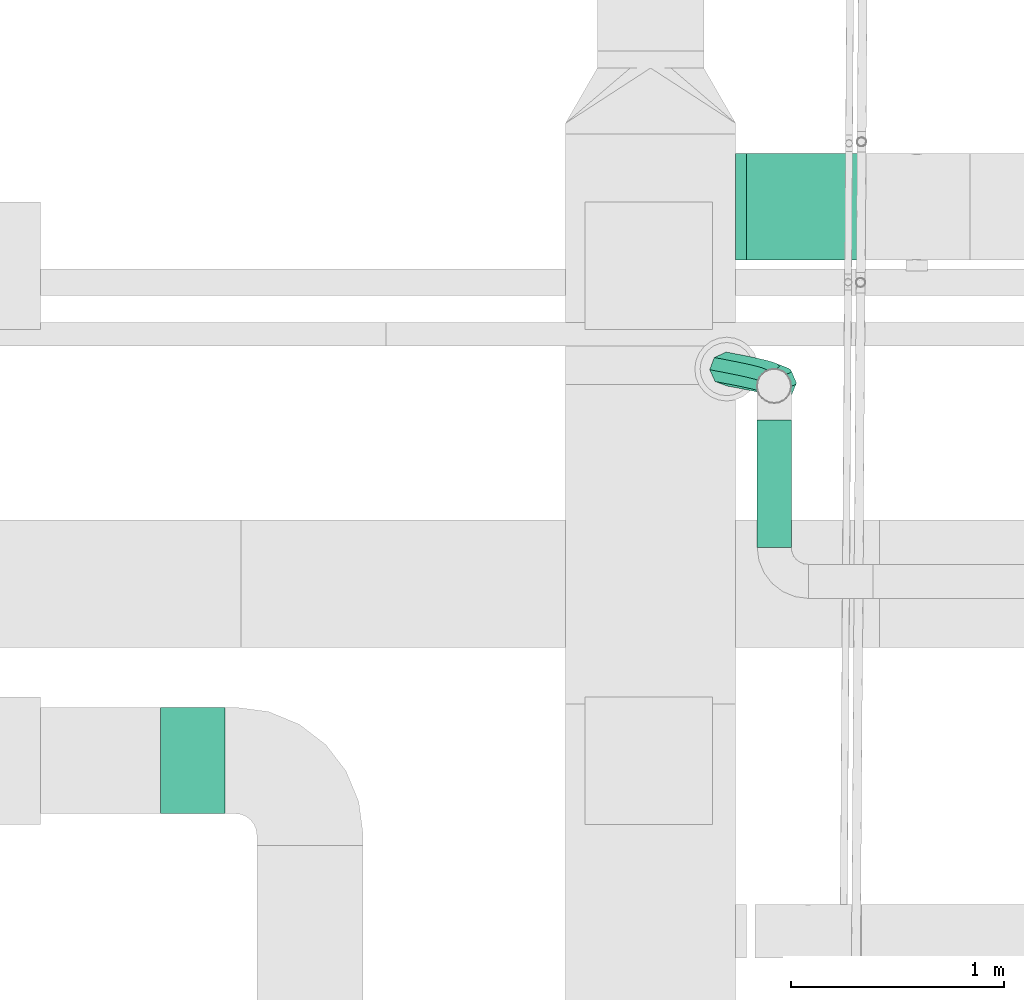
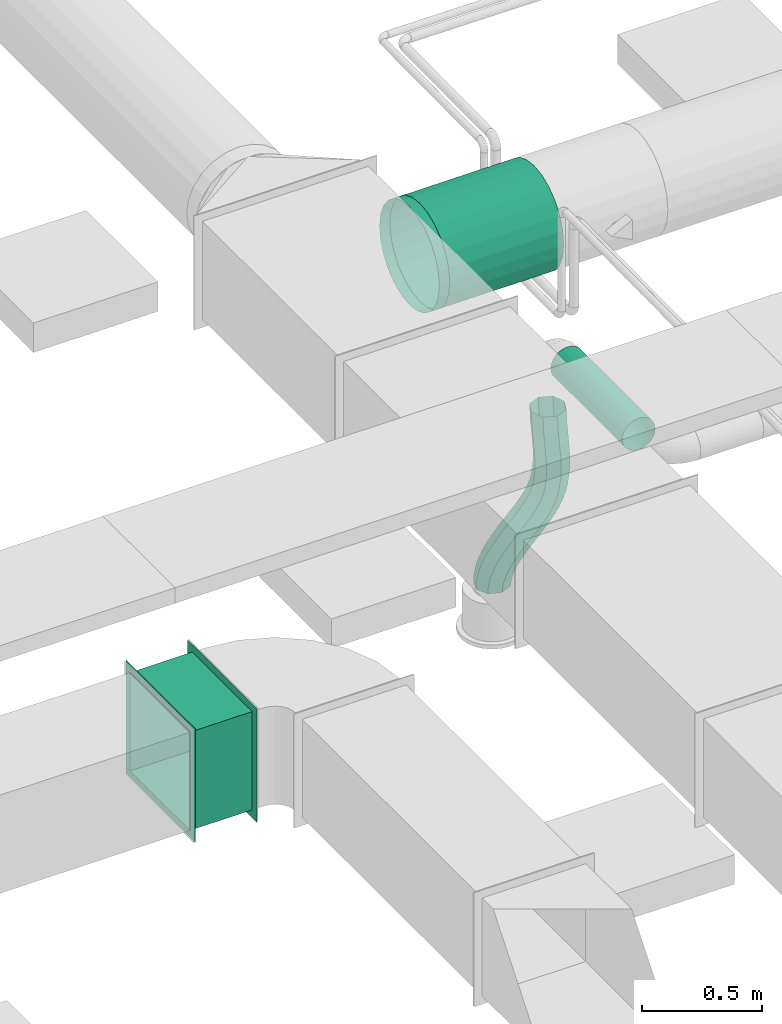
# One storey, part 311 of 374: 5 flow segments.
"""IFC2X3 building model written with IfcOpenShell, lengths in metres."""

from ifc_helpers import new_model, si_unit, direction, origin, place, context, subcontext, project, spatial, open_shell, surface_model, source, transform, mapped, element, save


model = new_model("IFC2X3")

# Units and contexts
model_context = context("Model", 3, precision=1e-05, world=origin(), true_north=direction((-0.4480736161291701, 0.8939966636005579)))
body_context = subcontext(model_context, "Body", "Model", "MODEL_VIEW")
ifc_project = project(units=[si_unit("LENGTHUNIT", "METRE"), si_unit("AREAUNIT", "SQUARE_METRE"), si_unit("VOLUMEUNIT", "CUBIC_METRE"), si_unit("PLANEANGLEUNIT", "RADIAN"), si_unit("THERMODYNAMICTEMPERATUREUNIT", "KELVIN"), si_unit("MASSUNIT", "GRAM", prefix="KILO"), si_unit("TIMEUNIT", "SECOND")], contexts=[model_context])

# Site, building, storey
site_placement = place(None, origin())
site = spatial("IfcSite", under=ifc_project, at=site_placement, Name="Site 1", CompositionType="ELEMENT")
building_placement = place(site_placement, origin())
building = spatial("IfcBuilding", under=site, at=building_placement, Name="Undefined", CompositionType="ELEMENT")
storey_placement = place(building_placement, origin())
storey = spatial("IfcBuildingStorey", under=building, at=storey_placement, Name="Rez de chauss\x8ee", CompositionType="ELEMENT", Elevation=0.0)

# Flow segments
shared_shape_1 = source(origin(), body_context, "Body", "SurfaceModel", [
    surface_model("IfcFaceBasedSurfaceModel", [(0.0, 0.020884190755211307, 0.0), (0.0, 0.0, 0.0), (0.5972968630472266, 7.105427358e-15, 0.0), (0.5972968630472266, 0.020884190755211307, 0.0), (0.0, -0.020172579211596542, -0.005405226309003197), (0.5972968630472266, -0.020172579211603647, -0.005405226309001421), (0.0, -0.03825881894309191, -0.015847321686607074), (0.5972968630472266, -0.038258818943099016, -0.015847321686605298), (0.0, -0.05302617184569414, -0.0306146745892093), (0.5972968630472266, -0.05302617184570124, -0.030614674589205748), (0.0, -0.06346826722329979, -0.04870091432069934), (0.5972968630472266, -0.0634682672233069, -0.04870091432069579), (0.0, -0.06887349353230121, -0.06887349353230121), (0.5972968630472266, -0.0688734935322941, -0.06887349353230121), (0.0, -0.06887349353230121, -0.08975768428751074), (0.5972968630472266, -0.06887349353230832, -0.08975768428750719), (0.0, -0.06346826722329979, -0.10993026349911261), (0.5972968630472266, -0.0634682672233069, -0.10993026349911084), (0.0, -0.05302617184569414, -0.12801650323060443), (0.5972968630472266, -0.05302617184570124, -0.12801650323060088), (0.0, -0.038258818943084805, -0.14278385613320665), (0.5972968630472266, -0.03825881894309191, -0.1427838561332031), (0.0, -0.020172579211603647, -0.15322595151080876), (0.5972968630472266, -0.020172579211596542, -0.15322595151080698), (0.0, 7.105427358e-15, -0.15863117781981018), (0.5972968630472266, 0.0, -0.1586311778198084), (0.0, 0.020884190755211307, -0.15863117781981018), (0.5972968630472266, 0.020884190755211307, -0.1586311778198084), (0.0, 0.04105676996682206, -0.15322595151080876), (0.5972968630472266, 0.041056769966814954, -0.15322595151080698), (0.0, 0.05914300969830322, -0.1427838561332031), (0.5972968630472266, 0.05914300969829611, -0.1427838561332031), (0.0, 0.07391036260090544, -0.12801650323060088), (0.5972968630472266, 0.07391036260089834, -0.12801650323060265), (0.0, 0.0843524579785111, -0.10993026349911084), (0.5972968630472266, 0.0843524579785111, -0.10993026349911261), (0.0, 0.08975768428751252, -0.08975768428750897), (0.5972968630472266, 0.08975768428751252, -0.08975768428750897), (0.0, 0.08975768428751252, -0.06887349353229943), (0.5972968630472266, 0.08975768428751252, -0.06887349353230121), (0.0, 0.0843524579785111, -0.048700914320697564), (0.5972968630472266, 0.08435245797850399, -0.048700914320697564), (0.0, 0.07391036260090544, -0.030614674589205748), (0.5972968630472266, 0.07391036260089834, -0.030614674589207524), (0.0, 0.05914300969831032, -0.015847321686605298), (0.5972968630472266, 0.05914300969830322, -0.015847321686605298), (0.0, 0.04105676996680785, -0.005405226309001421), (0.5972968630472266, 0.041056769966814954, -0.005405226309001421)], [open_shell([[[0, 1, 2, 3]], [[1, 4, 5, 2]], [[4, 6, 7, 5]], [[6, 8, 9, 7]], [[8, 10, 11, 9]], [[10, 12, 13, 11]], [[12, 14, 15, 13]], [[14, 16, 17, 15]], [[16, 18, 19, 17]], [[18, 20, 21, 19]], [[20, 22, 23, 21]], [[22, 24, 25, 23]], [[24, 26, 27, 25]], [[26, 28, 29, 27]], [[28, 30, 31, 29]], [[30, 32, 33, 31]], [[32, 34, 35, 33]], [[34, 36, 37, 35]], [[36, 38, 39, 37]], [[38, 40, 41, 39]], [[40, 42, 43, 41]], [[42, 44, 45, 43]], [[44, 46, 47, 45]], [[46, 0, 3, 47]]])]),
])
flow_segment_1_placement = place(storey_placement, origin())
element("IfcFlowSegment", 1, at=flow_segment_1_placement, inside=storey, Name="Tube", ObjectType="Tube", context=body_context, shape_type="MappedRepresentation", body=[
    mapped(shared_shape_1, transform((52.53660764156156, 16.11499847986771, 3.877274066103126), x_axis=(0.0, 1.0, 0.0), y_axis=(-0.9914448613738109, 0.0, 0.1305261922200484), z_axis=(0.1305261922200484, 0.0, 0.9914448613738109))),
])
shared_shape_2 = source(origin(), body_context, "Body", "SurfaceModel", [
    surface_model("IfcFaceBasedSurfaceModel", [(0.0, 0.0652630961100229, -3.552713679e-15), (0.0, 0.0, 0.0), (0.5499999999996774, 3.552713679e-15, -4.4408921e-16), (0.5499999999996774, 0.0652630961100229, -4.4408921e-16), (0.0, -0.06303931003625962, -0.01689133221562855), (0.5499999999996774, -0.06303931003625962, -0.01689133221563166), (0.0, -0.11955880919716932, -0.049522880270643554), (0.5499999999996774, -0.11955880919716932, -0.04952288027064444), (0.0, -0.1657067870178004, -0.09567085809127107), (0.5499999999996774, -0.1657067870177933, -0.09567085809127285), (0.0, -0.1983383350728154, -0.15219035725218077), (0.5499999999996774, -0.1983383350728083, -0.15219035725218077), (0.0, -0.2152296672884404, -0.2152296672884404), (0.5499999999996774, -0.2152296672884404, -0.21522966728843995), (0.0, -0.2152296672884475, -0.28049276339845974), (0.5499999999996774, -0.21522966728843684, -0.2804927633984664), (0.0, -0.1983383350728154, -0.3435320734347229), (0.5499999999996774, -0.1983383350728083, -0.3435320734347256), (0.0, -0.1657067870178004, -0.4000515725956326), (0.5499999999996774, -0.16570678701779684, -0.40005157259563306), (0.0, -0.11955880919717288, -0.44619955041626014), (0.5499999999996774, -0.11955880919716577, -0.4461995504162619), (0.0, -0.06303931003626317, -0.47883109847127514), (0.5499999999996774, -0.06303931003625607, -0.47883109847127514), (0.0, -7.105427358e-15, -0.49572243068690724), (0.5499999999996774, 0.0, -0.49572243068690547), (0.0, 0.0652630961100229, -0.4957224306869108), (0.5499999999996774, 0.0652630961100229, -0.49572243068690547), (0.0, 0.12830240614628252, -0.47883109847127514), (0.5499999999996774, 0.12830240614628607, -0.47883109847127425), (0.0, 0.18482190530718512, -0.4461995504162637), (0.5499999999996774, 0.18482190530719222, -0.44619955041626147), (0.0, 0.2309698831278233, -0.4000515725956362), (0.5499999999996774, 0.2309698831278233, -0.40005157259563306), (0.0, 0.26360143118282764, -0.34353207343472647), (0.5499999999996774, 0.26360143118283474, -0.34353207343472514), (0.0, 0.2804927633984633, -0.2804927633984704), (0.5499999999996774, 0.28049276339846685, -0.2804927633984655), (0.0, 0.28049276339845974, -0.2152296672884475), (0.5499999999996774, 0.2804927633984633, -0.2152296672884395), (0.0, 0.2636014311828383, -0.15219035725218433), (0.5499999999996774, 0.2636014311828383, -0.15219035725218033), (0.0, 0.2309698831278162, -0.09567085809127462), (0.5499999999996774, 0.23096988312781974, -0.09567085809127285), (0.0, 0.18482190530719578, -0.049522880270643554), (0.5499999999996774, 0.18482190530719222, -0.049522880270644), (0.0, 0.12830240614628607, -0.016891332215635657), (0.5499999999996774, 0.12830240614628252, -0.016891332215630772)], [open_shell([[[0, 1, 2, 3]], [[1, 4, 5, 2]], [[4, 6, 7, 5]], [[6, 8, 9, 7]], [[8, 10, 11, 9]], [[10, 12, 13, 11]], [[12, 14, 15, 13]], [[14, 16, 17, 15]], [[16, 18, 19, 17]], [[18, 20, 21, 19]], [[20, 22, 23, 21]], [[22, 24, 25, 23]], [[24, 26, 27, 25]], [[26, 28, 29, 27]], [[28, 30, 31, 29]], [[30, 32, 33, 31]], [[32, 34, 35, 33]], [[34, 36, 37, 35]], [[36, 38, 39, 37]], [[38, 40, 41, 39]], [[40, 42, 43, 41]], [[42, 44, 45, 43]], [[44, 46, 47, 45]], [[46, 0, 3, 47]]])]),
])
flow_segment_2_placement = place(storey_placement, origin())
element("IfcFlowSegment", 2, at=flow_segment_2_placement, inside=storey, Name="Tube", ObjectType="Tube", context=body_context, shape_type="MappedRepresentation", body=[
    mapped(shared_shape_2, transform((52.38499507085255, 17.649561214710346, 4.041481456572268), x_axis=(1.0, 0.0, 0.0), y_axis=(0.0, 0.9914448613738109, 0.1305261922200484), z_axis=(0.0, -0.1305261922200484, 0.9914448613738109))),
])
shared_shape_3 = source(origin(), body_context, "Body", "SurfaceModel", [
    surface_model("IfcFaceBasedSurfaceModel", [(0.09682865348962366, 0.0, 0.0), (0.056251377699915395, 0.04585322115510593, 0.0), (0.0, 0.0, 0.0), (0.03761410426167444, -0.04831363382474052, -7.174993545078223e-05), (-0.061678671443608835, -0.04588102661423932, 0.0031998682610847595), (-0.02492694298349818, -0.09485388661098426, 0.003148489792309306), (-0.12545377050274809, -0.0941316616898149, 0.00808070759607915), (-0.08705201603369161, -0.14182145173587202, 0.007931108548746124), (-0.18753706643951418, -0.1473332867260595, 0.012930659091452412), (-0.14503565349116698, -0.19140725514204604, 0.012545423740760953), (-0.2423178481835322, -0.20681088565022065, 0.01580870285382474), (-0.19550839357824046, -0.24627731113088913, 0.01525244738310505), (-0.2681285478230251, -0.24306298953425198, 0.015888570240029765), (-0.2162632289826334, -0.2756014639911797, 0.015369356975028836), (-0.2887383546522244, -0.2800060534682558, 0.014677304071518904), (-0.23409561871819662, -0.3076301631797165, 0.014340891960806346), (-0.30094072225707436, -0.3077638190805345, 0.012951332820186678), (-0.24401524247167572, -0.33031427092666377, 0.012942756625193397), (-0.3107801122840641, -0.3351935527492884, 0.01069019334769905), (-0.2525896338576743, -0.3542413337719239, 0.010979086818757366), (-0.31902123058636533, -0.3628934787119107, 0.0079540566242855), (-0.2599801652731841, -0.37910634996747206, 0.008527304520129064), (-0.3260060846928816, -0.390709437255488, 0.0048364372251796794), (-0.2664132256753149, -0.40474705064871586, 0.0056548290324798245), (-0.3320529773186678, -0.41850186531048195, 0.0014234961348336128), (-0.2721212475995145, -0.4310001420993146, 0.0024304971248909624), (-0.33748453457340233, -0.4462760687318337, -0.0022228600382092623), (-0.27735281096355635, -0.45776135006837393, -0.0010838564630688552), (-0.3449447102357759, -0.4868761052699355, -0.007863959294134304), (-0.2847979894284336, -0.49828152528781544, -0.006714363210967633), (-0.35233668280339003, -0.5257432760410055, -0.013488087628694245), (-0.2926760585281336, -0.5394891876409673, -0.012655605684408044), (-0.3710531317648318, -0.6011056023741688, -0.024390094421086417), (-0.31219323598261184, -0.6179690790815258, -0.02397897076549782), (-0.3827293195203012, -0.6325307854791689, -0.028713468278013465), (-0.3264102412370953, -0.656551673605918, -0.029151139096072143), (-0.39772785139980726, -0.6626447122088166, -0.0324243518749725), (-0.34406158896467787, -0.6921048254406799, -0.0334574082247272), (-0.4086171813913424, -0.6792856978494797, -0.034220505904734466), (-0.3588515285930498, -0.7149211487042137, -0.035810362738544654), (-0.4214273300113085, -0.6951494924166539, -0.03563113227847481), (-0.3758399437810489, -0.7359784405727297, -0.037585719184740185), (-0.4360543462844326, -0.7095584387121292, -0.03655369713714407), (-0.3954538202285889, -0.7553397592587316, -0.03872191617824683), (0.028531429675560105, 0.07913696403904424, -0.04327620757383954), (-0.027328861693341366, 0.03365754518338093, -0.04323582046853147), (-0.08945977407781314, -0.012552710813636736, -0.04000275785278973), (-0.1547135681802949, -0.06196988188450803, -0.03502981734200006), (-0.21927868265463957, -0.11741862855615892, -0.030041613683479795), (-0.27641018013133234, -0.17947170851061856, -0.027078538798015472), (-0.30481085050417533, -0.2193767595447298, -0.027034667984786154), (-0.3268071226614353, -0.2588195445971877, -0.028345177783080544), (-0.34012772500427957, -0.28911238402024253, -0.030240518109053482), (-0.35057758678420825, -0.3182565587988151, -0.03264953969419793), (-0.35922026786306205, -0.34731019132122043, -0.03552273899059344), (-0.36645652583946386, -0.3761246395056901, -0.038753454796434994), (-0.37264755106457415, -0.4045729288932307, -0.04224684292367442), (-0.3781445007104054, -0.4326739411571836, -0.04593535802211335), (-0.3855710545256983, -0.4730929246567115, -0.05155099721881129), (-0.3925995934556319, -0.5102711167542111, -0.05694546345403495), (-0.4107879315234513, -0.5836463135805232, -0.06757981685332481), (-0.4208356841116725, -0.6107358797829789, -0.07139742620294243), (-0.4342158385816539, -0.637643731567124, -0.07476358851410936), (-0.44276080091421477, -0.6507017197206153, -0.07624671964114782), (-0.45310164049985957, -0.6635843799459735, -0.07745714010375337), (-0.46480783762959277, -0.6751774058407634, -0.07826957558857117), (0.02990677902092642, 0.0803540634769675, -0.10447800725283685), (-0.0283636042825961, 0.032942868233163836, -0.10445225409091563), (-0.09199645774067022, -0.014392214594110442, -0.10115187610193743), (-0.15769141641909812, -0.06417604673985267, -0.09614690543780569), (-0.22166669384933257, -0.11918688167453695, -0.0911988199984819), (-0.27781456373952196, -0.18027469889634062, -0.08828651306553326), (-0.30482214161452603, -0.2184178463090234, -0.08825650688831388), (-0.32600175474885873, -0.25648140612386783, -0.08952456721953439), (-0.3386210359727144, -0.28528572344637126, -0.09133159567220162), (-0.3486692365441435, -0.3133518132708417, -0.09365228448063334), (-0.3570292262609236, -0.34148496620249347, -0.09643496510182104), (-0.3640692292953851, -0.3695362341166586, -0.09958047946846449), (-0.3701252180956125, -0.39737271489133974, -0.10299902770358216), (-0.375514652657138, -0.4249229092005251, -0.10661516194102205), (-0.38287866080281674, -0.4650059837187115, -0.11218420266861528), (-0.389879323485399, -0.5021360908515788, -0.11757099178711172), (-0.4081215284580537, -0.575818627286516, -0.12824818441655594), (-0.4184071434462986, -0.6039341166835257, -0.132199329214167), (-0.4321513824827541, -0.6317471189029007, -0.13567336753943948), (-0.44128151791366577, -0.6459133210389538, -0.13727061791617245), (-0.45230849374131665, -0.6597735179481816, -0.13856263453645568), (-0.4648708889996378, -0.6723366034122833, -0.13943295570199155), (0.05957176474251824, 0.0487915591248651, -0.1477542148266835), (-0.002498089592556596, -0.001725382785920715, -0.1477895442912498), (-0.06780276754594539, -0.05032198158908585, -0.14442716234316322), (-0.13264293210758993, -0.09945781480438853, -0.13946899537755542), (-0.19330223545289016, -0.15160222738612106, -0.13471589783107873), (-0.2457083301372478, -0.2087494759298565, -0.13196041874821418), (-0.2681558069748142, -0.24074796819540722, -0.1319140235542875), (-0.28679402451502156, -0.2743612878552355, -0.1330228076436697), (-0.29730325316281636, -0.2985254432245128, -0.13453557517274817), (-0.30617294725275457, -0.32335244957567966, -0.1365834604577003), (-0.31373158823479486, -0.348830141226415, -0.13910106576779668), (-0.32024264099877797, -0.37480361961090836, -0.14201299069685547), (-0.32596352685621, -0.4011190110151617, -0.14524525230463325), (-0.3311355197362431, -0.4275634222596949, -0.14871686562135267), (-0.3384446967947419, -0.4673525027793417, -0.15424546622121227), (-0.3457693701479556, -0.5061035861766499, -0.15985106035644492), (-0.36461586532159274, -0.5822078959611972, -0.1708564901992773), (-0.3768663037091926, -0.616109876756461, -0.17550224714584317), (-0.39274381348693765, -0.6484090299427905, -0.1794735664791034), (-0.4050458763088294, -0.6677254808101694, -0.18154522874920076), (-0.41951250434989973, -0.6859492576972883, -0.18315284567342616), (-0.4362065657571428, -0.7027001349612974, -0.18421515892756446), (0.10014904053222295, 0.002938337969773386, -0.1477542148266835), (0.0351160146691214, -0.05003901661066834, -0.14786129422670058), (-0.031051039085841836, -0.0992948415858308, -0.14447854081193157), (-0.09424117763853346, -0.14714760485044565, -0.13961859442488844), (-0.15080082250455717, -0.1956761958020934, -0.13510113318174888), (-0.1988988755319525, -0.24821590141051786, -0.13251667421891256), (-0.2162904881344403, -0.27328644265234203, -0.1324332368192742), (-0.23215128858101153, -0.30198539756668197, -0.13335921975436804), (-0.24037777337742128, -0.32107589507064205, -0.13454415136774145), (-0.2479824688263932, -0.34240023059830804, -0.1362945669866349), (-0.2546905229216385, -0.36504301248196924, -0.1385278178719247), (-0.26064978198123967, -0.3888412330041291, -0.141194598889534), (-0.2660317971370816, -0.4136172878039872, -0.1442382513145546), (-0.271003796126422, -0.43904870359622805, -0.14757786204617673), (-0.27829797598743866, -0.4787579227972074, -0.1530958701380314), (-0.28610874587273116, -0.5198494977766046, -0.1590185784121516), (-0.3057559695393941, -0.5990713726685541, -0.17044536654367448), (-0.32054722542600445, -0.6401307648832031, -0.17593991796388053), (-0.339077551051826, -0.6778691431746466, -0.18050662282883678), (-0.35528022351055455, -0.7033609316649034, -0.18313508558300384), (-0.37392511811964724, -0.7267782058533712, -0.18510743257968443), (-0.3956060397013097, -0.7484814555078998, -0.1863833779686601), (0.12786898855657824, -0.03034540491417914, -0.10447800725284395), (0.062444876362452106, -0.08369656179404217, -0.104625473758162), (-0.0032699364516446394, -0.13262315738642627, -0.10127591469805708), (-0.06498137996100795, -0.1793093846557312, -0.09650806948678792), (-0.11905920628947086, -0.22559085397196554, -0.09212886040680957), (-0.1648065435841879, -0.27555507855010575, -0.08962943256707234), (-0.17960818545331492, -0.2969726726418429, -0.08950999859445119), (-0.19408252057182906, -0.32317190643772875, -0.09033673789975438), (-0.2011907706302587, -0.33972733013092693, -0.09135230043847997), (-0.2081849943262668, -0.35933722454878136, -0.0929548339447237), (-0.21449148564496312, -0.3806262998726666, -0.09505102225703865), (-0.22019934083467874, -0.40342603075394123, -0.09760470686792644), (-0.2254372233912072, -0.42754622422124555, -0.10056791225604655), (-0.2303438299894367, -0.452650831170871, -0.10386536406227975), (-0.23767163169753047, -0.49254110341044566, -0.1094088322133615), (-0.24584583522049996, -0.5353216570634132, -0.1155612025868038), (-0.2660211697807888, -0.6165306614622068, -0.12725564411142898), (-0.2824408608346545, -0.6619256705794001, -0.13325596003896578), (-0.3025895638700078, -0.7028701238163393, -0.13816738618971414), (-0.32113660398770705, -0.7319449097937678, -0.1411088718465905), (-0.3422508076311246, -0.7583433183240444, -0.14328142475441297), (-0.366852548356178, -0.7828624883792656, -0.144667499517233), (0.12649363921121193, -0.03156250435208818, -0.04327620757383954), (0.06347961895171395, -0.08298188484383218, -0.043409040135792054), (-0.000733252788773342, -0.13078365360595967, -0.04012679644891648), (-0.06200353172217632, -0.17710321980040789, -0.03539098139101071), (-0.11667119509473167, -0.22382260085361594, -0.030971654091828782), (-0.16340215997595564, -0.274752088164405, -0.028421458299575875), (-0.17959689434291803, -0.29793158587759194, -0.02828815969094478), (-0.19488788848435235, -0.32551004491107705, -0.029157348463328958), (-0.20269745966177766, -0.3435539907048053, -0.03026122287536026), (-0.21009334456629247, -0.36424197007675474, -0.031952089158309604), (-0.21668252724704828, -0.3864515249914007, -0.03413879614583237), (-0.22258663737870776, -0.4100144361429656, -0.036777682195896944), (-0.22795955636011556, -0.4347464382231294, -0.03981572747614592), (-0.23297367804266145, -0.4604018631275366, -0.04318556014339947), (-0.24036402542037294, -0.5006280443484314, -0.04877562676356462), (-0.24856610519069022, -0.5434566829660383, -0.05493567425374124), (-0.26868757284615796, -0.6243583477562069, -0.06658727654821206), (-0.2848694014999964, -0.6687274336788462, -0.07245405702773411), (-0.3046540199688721, -0.7087667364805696, -0.0772576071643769), (-0.3226158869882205, -0.7367333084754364, -0.08008497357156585), (-0.34304395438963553, -0.7621541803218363, -0.08217593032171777), (-0.36678949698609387, -0.7857032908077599, -0.08350411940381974)], [open_shell([[[0, 1, 2]], [[2, 3, 0]], [[3, 2, 4]], [[4, 5, 3]], [[5, 4, 6]], [[6, 7, 5]], [[7, 6, 8]], [[8, 9, 7]], [[9, 8, 10]], [[10, 11, 9]], [[11, 10, 12]], [[12, 13, 11]], [[13, 12, 14]], [[14, 15, 13]], [[15, 14, 16]], [[16, 17, 15]], [[17, 16, 18]], [[18, 19, 17]], [[19, 18, 20]], [[20, 21, 19]], [[21, 20, 22]], [[22, 23, 21]], [[23, 22, 24]], [[24, 25, 23]], [[25, 24, 26]], [[26, 27, 25]], [[27, 26, 28]], [[28, 29, 27]], [[29, 28, 30]], [[30, 31, 29]], [[31, 30, 32]], [[32, 33, 31]], [[33, 32, 34]], [[34, 35, 33]], [[35, 34, 36]], [[36, 37, 35]], [[37, 36, 38]], [[38, 39, 37]], [[39, 38, 40]], [[40, 41, 39]], [[41, 40, 42]], [[42, 43, 41]], [[1, 44, 45]], [[45, 2, 1]], [[2, 45, 46]], [[46, 4, 2]], [[4, 46, 47]], [[47, 6, 4]], [[6, 47, 48]], [[48, 8, 6]], [[8, 48, 49]], [[49, 10, 8]], [[10, 49, 50]], [[50, 12, 10]], [[12, 50, 51]], [[51, 14, 12]], [[14, 51, 52]], [[52, 16, 14]], [[16, 52, 53]], [[53, 18, 16]], [[18, 53, 54]], [[54, 20, 18]], [[20, 54, 55]], [[55, 22, 20]], [[22, 55, 56]], [[56, 24, 22]], [[24, 56, 57]], [[57, 26, 24]], [[26, 57, 58]], [[58, 28, 26]], [[28, 58, 59]], [[59, 30, 28]], [[30, 59, 60]], [[60, 32, 30]], [[32, 60, 61]], [[61, 34, 32]], [[34, 61, 62]], [[62, 36, 34]], [[36, 62, 63]], [[63, 38, 36]], [[38, 63, 64]], [[64, 40, 38]], [[40, 64, 65]], [[65, 42, 40]], [[44, 66, 67]], [[67, 45, 44]], [[45, 67, 68]], [[68, 46, 45]], [[46, 68, 69]], [[69, 47, 46]], [[47, 69, 70]], [[70, 48, 47]], [[48, 70, 71]], [[71, 49, 48]], [[49, 71, 72]], [[72, 50, 49]], [[50, 72, 73]], [[73, 51, 50]], [[51, 73, 74]], [[74, 52, 51]], [[52, 74, 75]], [[75, 53, 52]], [[53, 75, 76]], [[76, 54, 53]], [[54, 76, 77]], [[77, 55, 54]], [[55, 77, 78]], [[78, 56, 55]], [[56, 78, 79]], [[79, 57, 56]], [[57, 79, 80]], [[80, 58, 57]], [[58, 80, 81]], [[81, 59, 58]], [[59, 81, 82]], [[82, 60, 59]], [[60, 82, 83]], [[83, 61, 60]], [[61, 83, 84]], [[84, 62, 61]], [[62, 84, 85]], [[85, 63, 62]], [[63, 85, 86]], [[86, 64, 63]], [[64, 86, 87]], [[87, 65, 64]], [[66, 88, 89]], [[89, 67, 66]], [[67, 89, 90]], [[90, 68, 67]], [[68, 90, 91]], [[91, 69, 68]], [[69, 91, 92]], [[92, 70, 69]], [[70, 92, 93]], [[93, 71, 70]], [[71, 93, 94]], [[94, 72, 71]], [[72, 94, 95]], [[95, 73, 72]], [[73, 95, 96]], [[96, 74, 73]], [[74, 96, 97]], [[97, 75, 74]], [[75, 97, 98]], [[98, 76, 75]], [[76, 98, 99]], [[99, 77, 76]], [[77, 99, 100]], [[100, 78, 77]], [[78, 100, 101]], [[101, 79, 78]], [[79, 101, 102]], [[102, 80, 79]], [[80, 102, 103]], [[103, 81, 80]], [[81, 103, 104]], [[104, 82, 81]], [[82, 104, 105]], [[105, 83, 82]], [[83, 105, 106]], [[106, 84, 83]], [[84, 106, 107]], [[107, 85, 84]], [[85, 107, 108]], [[108, 86, 85]], [[86, 108, 109]], [[109, 87, 86]], [[88, 110, 111]], [[111, 89, 88]], [[89, 111, 112]], [[112, 90, 89]], [[90, 112, 113]], [[113, 91, 90]], [[91, 113, 114]], [[114, 92, 91]], [[92, 114, 115]], [[115, 93, 92]], [[93, 115, 116]], [[116, 94, 93]], [[94, 116, 117]], [[117, 95, 94]], [[95, 117, 118]], [[118, 96, 95]], [[96, 118, 119]], [[119, 97, 96]], [[97, 119, 120]], [[120, 98, 97]], [[98, 120, 121]], [[121, 99, 98]], [[99, 121, 122]], [[122, 100, 99]], [[100, 122, 123]], [[123, 101, 100]], [[101, 123, 124]], [[124, 102, 101]], [[102, 124, 125]], [[125, 103, 102]], [[103, 125, 126]], [[126, 104, 103]], [[104, 126, 127]], [[127, 105, 104]], [[105, 127, 128]], [[128, 106, 105]], [[106, 128, 129]], [[129, 107, 106]], [[107, 129, 130]], [[130, 108, 107]], [[108, 130, 131]], [[131, 109, 108]], [[110, 132, 133]], [[133, 111, 110]], [[111, 133, 134]], [[134, 112, 111]], [[112, 134, 135]], [[135, 113, 112]], [[113, 135, 136]], [[136, 114, 113]], [[114, 136, 137]], [[137, 115, 114]], [[115, 137, 138]], [[138, 116, 115]], [[116, 138, 139]], [[139, 117, 116]], [[117, 139, 140]], [[140, 118, 117]], [[118, 140, 141]], [[141, 119, 118]], [[119, 141, 142]], [[142, 120, 119]], [[120, 142, 143]], [[143, 121, 120]], [[121, 143, 144]], [[144, 122, 121]], [[122, 144, 145]], [[145, 123, 122]], [[123, 145, 146]], [[146, 124, 123]], [[124, 146, 147]], [[147, 125, 124]], [[125, 147, 148]], [[148, 126, 125]], [[126, 148, 149]], [[149, 127, 126]], [[127, 149, 150]], [[150, 128, 127]], [[128, 150, 151]], [[151, 129, 128]], [[129, 151, 152]], [[152, 130, 129]], [[130, 152, 153]], [[153, 131, 130]], [[132, 154, 155]], [[155, 133, 132]], [[133, 155, 156]], [[156, 134, 133]], [[134, 156, 157]], [[157, 135, 134]], [[135, 157, 158]], [[158, 136, 135]], [[136, 158, 159]], [[159, 137, 136]], [[137, 159, 160]], [[160, 138, 137]], [[138, 160, 161]], [[161, 139, 138]], [[139, 161, 162]], [[162, 140, 139]], [[140, 162, 163]], [[163, 141, 140]], [[141, 163, 164]], [[164, 142, 141]], [[142, 164, 165]], [[165, 143, 142]], [[143, 165, 166]], [[166, 144, 143]], [[144, 166, 167]], [[167, 145, 144]], [[145, 167, 168]], [[168, 146, 145]], [[146, 168, 169]], [[169, 147, 146]], [[147, 169, 170]], [[170, 148, 147]], [[148, 170, 171]], [[171, 149, 148]], [[149, 171, 172]], [[172, 150, 149]], [[150, 172, 173]], [[173, 151, 150]], [[151, 173, 174]], [[174, 152, 151]], [[152, 174, 175]], [[175, 153, 152]], [[154, 0, 3]], [[3, 155, 154]], [[155, 3, 5]], [[5, 156, 155]], [[156, 5, 7]], [[7, 157, 156]], [[157, 7, 9]], [[9, 158, 157]], [[158, 9, 11]], [[11, 159, 158]], [[159, 11, 13]], [[13, 160, 159]], [[160, 13, 15]], [[15, 161, 160]], [[161, 15, 17]], [[17, 162, 161]], [[162, 17, 19]], [[19, 163, 162]], [[163, 19, 21]], [[21, 164, 163]], [[164, 21, 23]], [[23, 165, 164]], [[165, 23, 25]], [[25, 166, 165]], [[166, 25, 27]], [[27, 167, 166]], [[167, 27, 29]], [[29, 168, 167]], [[168, 29, 31]], [[31, 169, 168]], [[169, 31, 33]], [[33, 170, 169]], [[170, 33, 35]], [[35, 171, 170]], [[171, 35, 37]], [[37, 172, 171]], [[172, 37, 39]], [[39, 173, 172]], [[173, 39, 41]], [[41, 174, 173]], [[174, 41, 43]], [[43, 175, 174]]])]),
])
flow_segment_3_placement = place(storey_placement, origin())
element("IfcFlowSegment", 3, at=flow_segment_3_placement, inside=storey, Name="Tube flexible", ObjectType="Tube flexible", context=body_context, shape_type="MappedRepresentation", body=[
    mapped(shared_shape_3, transform((52.576019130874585, 16.929748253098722, 3.40751992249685), x_axis=(-0.6208597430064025, 0.2328555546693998, 0.7485395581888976), y_axis=(0.6842648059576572, -0.30494724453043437, 0.6624113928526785), z_axis=(0.38251124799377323, 0.9234638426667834, 0.02999460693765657))),
])
shared_shape_4 = source(origin(), body_context, "Body", "SurfaceModel", [
    surface_model("IfcFaceBasedSurfaceModel", [(0.0, 0.0, 0.0), (0.5800000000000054, 0.0, 0.0), (0.5400000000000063, 0.040000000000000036, 0.0), (0.04000000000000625, 0.040000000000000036, 0.0), (0.5800000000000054, 0.5800000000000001, 0.0), (0.5400000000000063, 0.54, 0.0), (0.0, 0.5800000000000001, 0.0), (0.04000000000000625, 0.54, 0.0), (0.0, 0.0, -0.2961052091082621), (0.5800000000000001, 0.0, -0.2961052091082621), (0.5399999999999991, 0.040000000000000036, -0.2961052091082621), (0.03999999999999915, 0.040000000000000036, -0.2961052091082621), (0.5800000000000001, 0.5800000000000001, -0.2961052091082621), (0.5399999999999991, 0.54, -0.2961052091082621), (0.0, 0.5800000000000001, -0.2961052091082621), (0.03999999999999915, 0.54, -0.2961052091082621), (0.04000000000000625, 0.54, 0.0030000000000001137), (0.03999999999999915, 0.54, -0.2991052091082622), (0.03999999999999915, 0.040000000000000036, -0.2991052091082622), (0.04000000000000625, 0.040000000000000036, 0.0030000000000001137), (0.5399999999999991, 0.040000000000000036, -0.2991052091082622), (0.5400000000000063, 0.040000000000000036, 0.0030000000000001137), (0.5399999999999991, 0.54, -0.2991052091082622), (0.5400000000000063, 0.54, 0.0030000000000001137)], [open_shell([[[0, 1, 2, 3]], [[1, 4, 5, 2]], [[6, 4, 5, 7]], [[0, 6, 7, 3]], [[8, 9, 10, 11]], [[9, 12, 13, 10]], [[14, 12, 13, 15]], [[8, 14, 15, 11]], [[16, 17, 18, 19]], [[19, 18, 20, 21]], [[21, 20, 22, 23]], [[23, 22, 17, 16]]])]),
])
flow_segment_4_placement = place(storey_placement, origin())
element("IfcFlowSegment", 4, at=flow_segment_4_placement, inside=storey, Name="Partie de gaine de ventilation", ObjectType="Partie de gaine de ventilation", context=body_context, shape_type="MappedRepresentation", body=[
    mapped(shared_shape_4, transform((49.63589142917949, 15.403573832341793, 3.5100000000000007), x_axis=(0.0, -1.0, 0.0), y_axis=(0.0, 0.0, 1.0), z_axis=(-1.0, 0.0, 0.0))),
])
shared_shape_5 = source(origin(), body_context, "Body", "SurfaceModel", [
    surface_model("IfcFaceBasedSurfaceModel", [(0.0, 0.0, 0.0), (0.0652630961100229, 0.0, 4.4408921e-16), (0.0652630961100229, 0.05000000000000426, 4.4408921e-16), (0.0, 0.049999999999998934, 0.0), (0.12830240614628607, 0.0, -0.016891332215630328), (0.12830240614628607, 0.04999999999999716, -0.016891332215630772), (0.18482190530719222, 7.105427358e-15, -0.04952288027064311), (0.18482190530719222, 0.05000000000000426, -0.049522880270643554), (0.23096988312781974, 7.105427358e-15, -0.09567085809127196), (0.2309698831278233, 0.05000000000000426, -0.09567085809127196), (0.26360143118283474, 7.105427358e-15, -0.15219035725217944), (0.26360143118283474, 0.05000000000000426, -0.1521903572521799), (0.28049276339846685, 7.105427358e-15, -0.2152296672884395), (0.28049276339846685, 0.05000000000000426, -0.2152296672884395), (0.2804927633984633, 7.105427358e-15, -0.2804927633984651), (0.2804927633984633, 0.05000000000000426, -0.2804927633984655), (0.26360143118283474, 7.105427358e-15, -0.3435320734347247), (0.2636014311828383, 0.05000000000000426, -0.3435320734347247), (0.23096988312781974, 7.105427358e-15, -0.40005157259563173), (0.23096988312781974, 0.05000000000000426, -0.4000515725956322), (0.18482190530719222, 0.0, -0.4461995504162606), (0.18482190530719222, 0.04999999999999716, -0.446199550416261), (0.12830240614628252, 0.0, -0.47883109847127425), (0.12830240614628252, 0.05000000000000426, -0.47883109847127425), (0.0652630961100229, 0.0, -0.49572243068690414), (0.0652630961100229, 0.04999999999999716, -0.4957224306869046), (0.0, -7.105427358e-15, -0.49572243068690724), (3.552713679e-15, 0.04999999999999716, -0.4957224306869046), (-0.06303931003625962, 0.0, -0.47883109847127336), (-0.06303931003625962, 0.04999999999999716, -0.47883109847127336), (-0.11955880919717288, -7.105427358e-15, -0.4461995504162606), (-0.11955880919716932, 0.04999999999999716, -0.4461995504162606), (-0.16570678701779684, -7.105427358e-15, -0.4000515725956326), (-0.1657067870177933, 0.04999999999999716, -0.4000515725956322), (-0.1983383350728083, -7.105427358e-15, -0.34353207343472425), (-0.1983383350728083, 0.04999999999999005, -0.34353207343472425), (-0.2152296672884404, -7.105427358e-15, -0.28049276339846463), (-0.2152296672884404, 0.04999999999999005, -0.2804927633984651), (-0.21522966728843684, -7.105427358e-15, -0.21522966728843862), (-0.21522966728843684, 0.04999999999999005, -0.21522966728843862), (-0.19833833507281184, -7.105427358e-15, -0.1521903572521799), (-0.1983383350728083, 0.04999999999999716, -0.15219035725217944), (-0.1657067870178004, -7.105427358e-15, -0.09567085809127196), (-0.16570678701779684, 0.04999999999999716, -0.09567085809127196), (-0.11955880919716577, 0.0, -0.04952288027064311), (-0.11955880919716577, 0.04999999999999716, -0.04952288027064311), (-0.06303931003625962, -7.105427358e-15, -0.01689133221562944), (-0.06303931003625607, 0.04999999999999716, -0.016891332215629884)], [open_shell([[[0, 1, 2, 3]], [[1, 4, 5, 2]], [[4, 6, 7, 5]], [[6, 8, 9, 7]], [[8, 10, 11, 9]], [[10, 12, 13, 11]], [[12, 14, 15, 13]], [[14, 16, 17, 15]], [[16, 18, 19, 17]], [[18, 20, 21, 19]], [[20, 22, 23, 21]], [[22, 24, 25, 23]], [[24, 26, 27, 25]], [[26, 28, 29, 27]], [[28, 30, 31, 29]], [[30, 32, 33, 31]], [[32, 34, 35, 33]], [[34, 36, 37, 35]], [[36, 38, 39, 37]], [[38, 40, 41, 39]], [[40, 42, 43, 41]], [[42, 44, 45, 43]], [[44, 46, 47, 45]], [[46, 0, 3, 47]]])]),
])
flow_segment_5_placement = place(storey_placement, origin())
element("IfcFlowSegment", 5, at=flow_segment_5_placement, inside=storey, Name="Piquage équerre sur plat", ObjectType="Piquage équerre sur plat", context=body_context, shape_type="MappedRepresentation", body=[
    mapped(shared_shape_5, transform((52.33499507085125, 17.714265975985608, 3.5500000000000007), x_axis=(0.0, 0.9914448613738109, 0.1305261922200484), y_axis=(1.0, 0.0, 0.0), z_axis=(0.0, 0.13052619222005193, -0.9914448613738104))),
])

save(model, "model.ifc")
